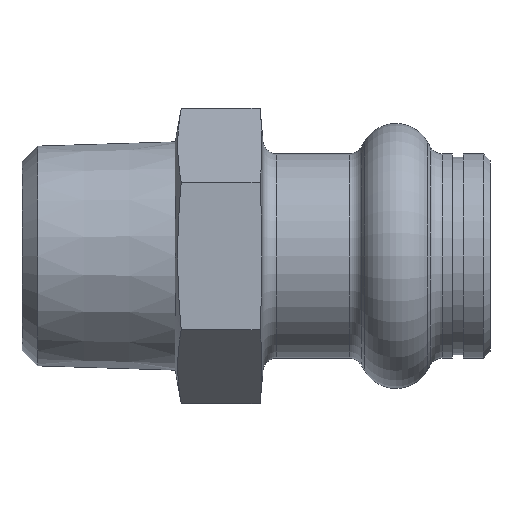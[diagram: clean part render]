
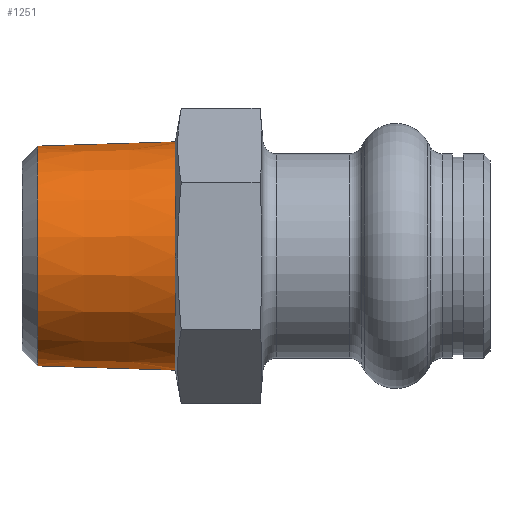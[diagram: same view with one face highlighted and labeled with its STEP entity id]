
A CAD part, left-side view. The second image highlights one B-rep face of the part: STEP entity #1251.
In plain terms, the highlighted conical face has half-angle 1.78 degrees and reference radius 8.486 mm.
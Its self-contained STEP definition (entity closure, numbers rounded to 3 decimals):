
#7 = AXIS2_PLACEMENT_3D ( 'NONE', #1272, #508, #1404 ) ;
#14 = EDGE_CURVE ( 'NONE', #311, #1061, #828, .T. ) ;
#28 = CONICAL_SURFACE ( 'NONE', #639, 8.486, 0.031 ) ;
#93 = CARTESIAN_POINT ( 'NONE',  ( 0., 33.632, 0. ) ) ;
#215 = CARTESIAN_POINT ( 'NONE',  ( 0., 23.4, 8.486 ) ) ;
#252 = CARTESIAN_POINT ( 'NONE',  ( 0., 23.4, -8.486 ) ) ;
#311 = VERTEX_POINT ( 'NONE', #745 ) ;
#352 = ORIENTED_EDGE ( 'NONE', *, *, #1394, .F. ) ;
#384 = EDGE_CURVE ( 'NONE', #1247, #311, #721, .T. ) ;
#407 = VERTEX_POINT ( 'NONE', #215 ) ;
#453 = CARTESIAN_POINT ( 'NONE',  ( 0., 33.632, 8.168 ) ) ;
#470 = DIRECTION ( 'NONE',  ( 0., -1., 0. ) ) ;
#484 = VECTOR ( 'NONE', #889, 1000. ) ;
#508 = DIRECTION ( 'NONE',  ( 0., -1., 0. ) ) ;
#601 = DIRECTION ( 'NONE',  ( 0., 0., -1. ) ) ;
#635 = CARTESIAN_POINT ( 'NONE',  ( 0., 23.4, 8.486 ) ) ;
#639 = AXIS2_PLACEMENT_3D ( 'NONE', #1236, #470, #601 ) ;
#721 = CIRCLE ( 'NONE', #910, 8.168 ) ;
#745 = CARTESIAN_POINT ( 'NONE',  ( 0., 33.632, -8.168 ) ) ;
#828 = LINE ( 'NONE', #252, #484 ) ;
#858 = DIRECTION ( 'NONE',  ( 0., -1., 0. ) ) ;
#889 = DIRECTION ( 'NONE',  ( 0., -1., -0.031 ) ) ;
#894 = ORIENTED_EDGE ( 'NONE', *, *, #384, .T. ) ;
#910 = AXIS2_PLACEMENT_3D ( 'NONE', #93, #858, #1619 ) ;
#1061 = VERTEX_POINT ( 'NONE', #1068 ) ;
#1068 = CARTESIAN_POINT ( 'NONE',  ( 0., 23.4, -8.486 ) ) ;
#1130 = EDGE_LOOP ( 'NONE', ( #1155, #894, #1495, #352 ) ) ;
#1155 = ORIENTED_EDGE ( 'NONE', *, *, #1379, .F. ) ;
#1220 = CIRCLE ( 'NONE', #7, 8.486 ) ;
#1236 = CARTESIAN_POINT ( 'NONE',  ( 0., 23.4, 0. ) ) ;
#1247 = VERTEX_POINT ( 'NONE', #453 ) ;
#1251 = ADVANCED_FACE ( 'NONE', ( #1377 ), #28, .T. ) ;
#1272 = CARTESIAN_POINT ( 'NONE',  ( 0., 23.4, 0. ) ) ;
#1300 = LINE ( 'NONE', #635, #1557 ) ;
#1377 = FACE_OUTER_BOUND ( 'NONE', #1130, .T. ) ;
#1379 = EDGE_CURVE ( 'NONE', #1247, #407, #1300, .T. ) ;
#1394 = EDGE_CURVE ( 'NONE', #407, #1061, #1220, .T. ) ;
#1404 = DIRECTION ( 'NONE',  ( 0., 0., -1. ) ) ;
#1495 = ORIENTED_EDGE ( 'NONE', *, *, #14, .T. ) ;
#1522 = DIRECTION ( 'NONE',  ( 0., -1., 0.031 ) ) ;
#1557 = VECTOR ( 'NONE', #1522, 1000. ) ;
#1619 = DIRECTION ( 'NONE',  ( 0., 0., -1. ) ) ;
